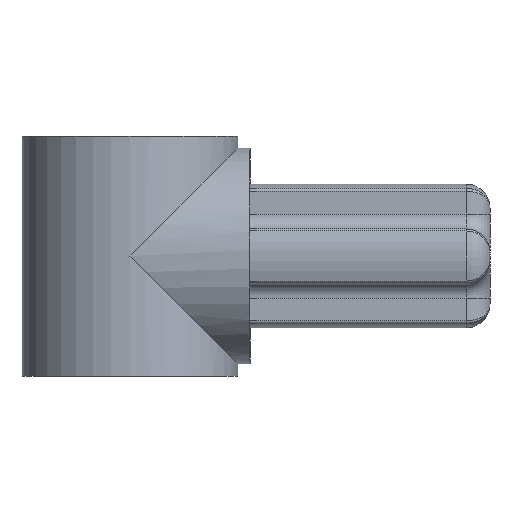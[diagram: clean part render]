
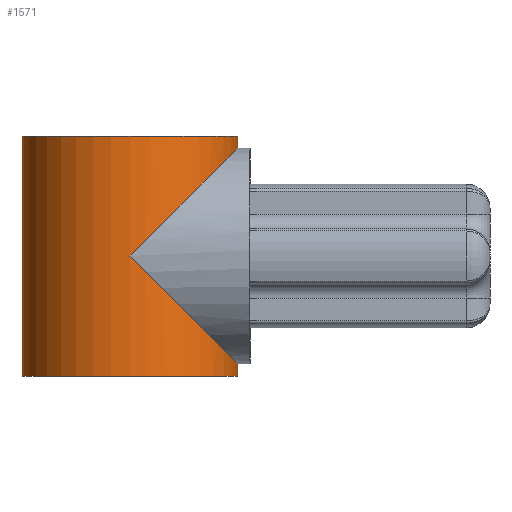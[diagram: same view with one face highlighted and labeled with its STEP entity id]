
A CAD part, left-side view. The second image highlights one B-rep face of the part: STEP entity #1571.
In plain terms, the highlighted cylindrical face has radius 3.6 mm (diameter 7.2 mm), a full revolution.
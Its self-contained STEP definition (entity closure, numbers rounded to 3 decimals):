
#300=ELLIPSE('',#1695,5.091,3.6);
#302=ELLIPSE('',#1697,5.091,3.6);
#303=ELLIPSE('',#1701,5.091,3.6);
#304=ELLIPSE('',#1702,5.091,3.6);
#309=ORIENTED_EDGE('',*,*,#787,.T.);
#310=ORIENTED_EDGE('',*,*,#788,.F.);
#311=ORIENTED_EDGE('',*,*,#789,.T.);
#312=ORIENTED_EDGE('',*,*,#790,.T.);
#313=ORIENTED_EDGE('',*,*,#784,.F.);
#314=ORIENTED_EDGE('',*,*,#786,.F.);
#784=EDGE_CURVE('',#1023,#1024,#300,.F.);
#786=EDGE_CURVE('',#1025,#1023,#302,.T.);
#787=EDGE_CURVE('',#1026,#1026,#1165,.T.);
#788=EDGE_CURVE('',#1027,#1027,#1166,.T.);
#789=EDGE_CURVE('',#1025,#1028,#303,.F.);
#790=EDGE_CURVE('',#1028,#1024,#304,.T.);
#1023=VERTEX_POINT('',#2411);
#1024=VERTEX_POINT('',#2412);
#1025=VERTEX_POINT('',#2414);
#1026=VERTEX_POINT('',#2418);
#1027=VERTEX_POINT('',#2420);
#1028=VERTEX_POINT('',#2422);
#1165=CIRCLE('',#1699,3.6);
#1166=CIRCLE('',#1700,3.6);
#1272=EDGE_LOOP('',(#309));
#1273=EDGE_LOOP('',(#310));
#1274=EDGE_LOOP('',(#311,#312,#313,#314));
#1395=FACE_BOUND('',#1272,.T.);
#1396=FACE_BOUND('',#1273,.T.);
#1397=FACE_BOUND('',#1274,.T.);
#1517=CYLINDRICAL_SURFACE('',#1698,3.6);
#1571=ADVANCED_FACE('',(#1395,#1396,#1397),#1517,.T.);
#1695=AXIS2_PLACEMENT_3D('',#2410,#1904,#1905);
#1697=AXIS2_PLACEMENT_3D('',#2415,#1908,#1909);
#1698=AXIS2_PLACEMENT_3D('',#2416,#1910,#1911);
#1699=AXIS2_PLACEMENT_3D('',#2417,#1912,#1913);
#1700=AXIS2_PLACEMENT_3D('',#2419,#1914,#1915);
#1701=AXIS2_PLACEMENT_3D('',#2421,#1916,#1917);
#1702=AXIS2_PLACEMENT_3D('',#2423,#1918,#1919);
#1904=DIRECTION('',(0.,0.707,-0.707));
#1905=DIRECTION('',(0.,-0.707,-0.707));
#1908=DIRECTION('',(0.,-0.707,-0.707));
#1909=DIRECTION('',(0.,0.707,-0.707));
#1910=DIRECTION('',(0.,0.,-1.));
#1911=DIRECTION('',(-1.,0.,0.));
#1912=DIRECTION('',(0.,0.,-1.));
#1913=DIRECTION('',(1.,0.,0.));
#1914=DIRECTION('',(0.,0.,-1.));
#1915=DIRECTION('',(1.,0.,0.));
#1916=DIRECTION('',(0.707,0.,-0.707));
#1917=DIRECTION('',(-0.707,0.,-0.707));
#1918=DIRECTION('',(-0.707,0.,-0.707));
#1919=DIRECTION('',(0.707,0.,-0.707));
#2410=CARTESIAN_POINT('',(0.,12.4,0.));
#2411=CARTESIAN_POINT('',(-3.6,12.4,0.));
#2412=CARTESIAN_POINT('',(2.546,9.854,-2.546));
#2414=CARTESIAN_POINT('',(2.546,9.854,2.546));
#2415=CARTESIAN_POINT('',(0.,12.4,0.));
#2416=CARTESIAN_POINT('',(0.,12.4,4.));
#2417=CARTESIAN_POINT('',(0.,12.4,4.));
#2418=CARTESIAN_POINT('',(3.6,12.4,4.));
#2419=CARTESIAN_POINT('',(0.,12.4,-4.));
#2420=CARTESIAN_POINT('',(3.6,12.4,-4.));
#2421=CARTESIAN_POINT('',(0.,12.4,0.));
#2422=CARTESIAN_POINT('',(0.,16.,0.));
#2423=CARTESIAN_POINT('',(0.,12.4,0.));
